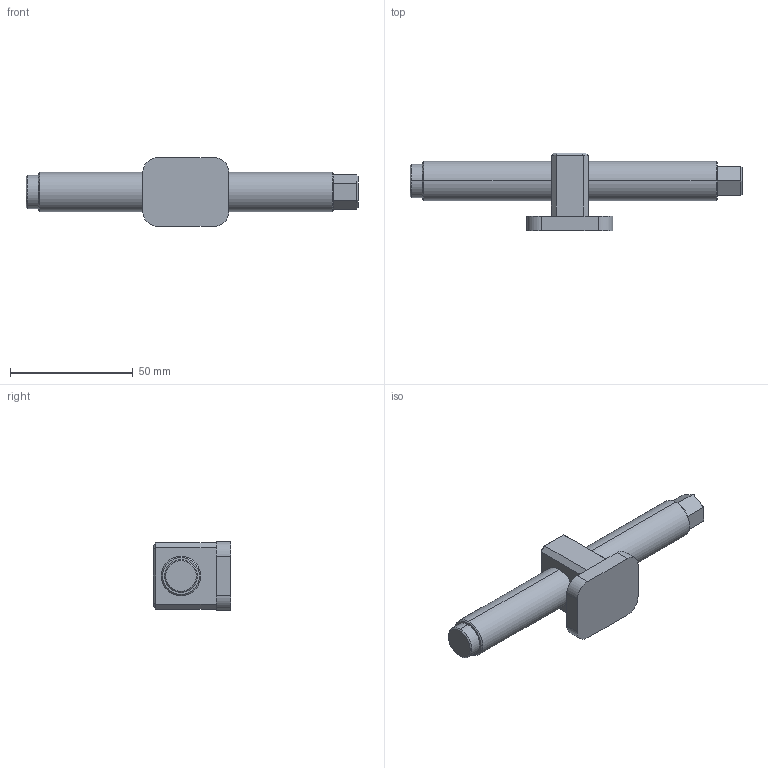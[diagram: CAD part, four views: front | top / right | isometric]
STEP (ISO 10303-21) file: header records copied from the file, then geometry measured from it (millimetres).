
FILE_DESCRIPTION (( 'STEP AP214' ), '1' );
FILE_NAME ('4877135.STEP', '2025-03-20T12:02:21', ( '' ), ( '' ), 'SwSTEP 2.0', 'SolidWorks 2021', '' );
FILE_SCHEMA (( 'AUTOMOTIVE_DESIGN' ));
Length unit declared in the file: millimetre
Products named in the file (1): 4877135
Bounding box: 135 x 31.65 x 28 mm (x, y, z)
Volume: 38672 mm3; surface area: 10597.7 mm2
Topology: 1 solids, 1 shells, 68 faces, 154 edges, 94 vertices
Faces by surface type: plane 52, cylinder 10, cone 6
Entity records: 2341 total; most frequent: DIRECTION 318, CARTESIAN_POINT 317, ORIENTED_EDGE 308, EDGE_CURVE 154, VECTOR 128, LINE 128, AXIS2_PLACEMENT_3D 95, VERTEX_POINT 94
